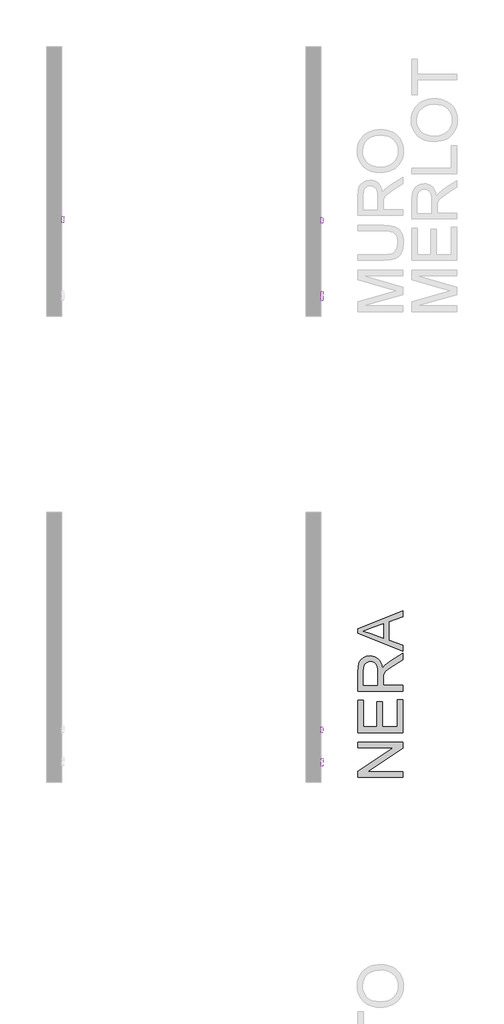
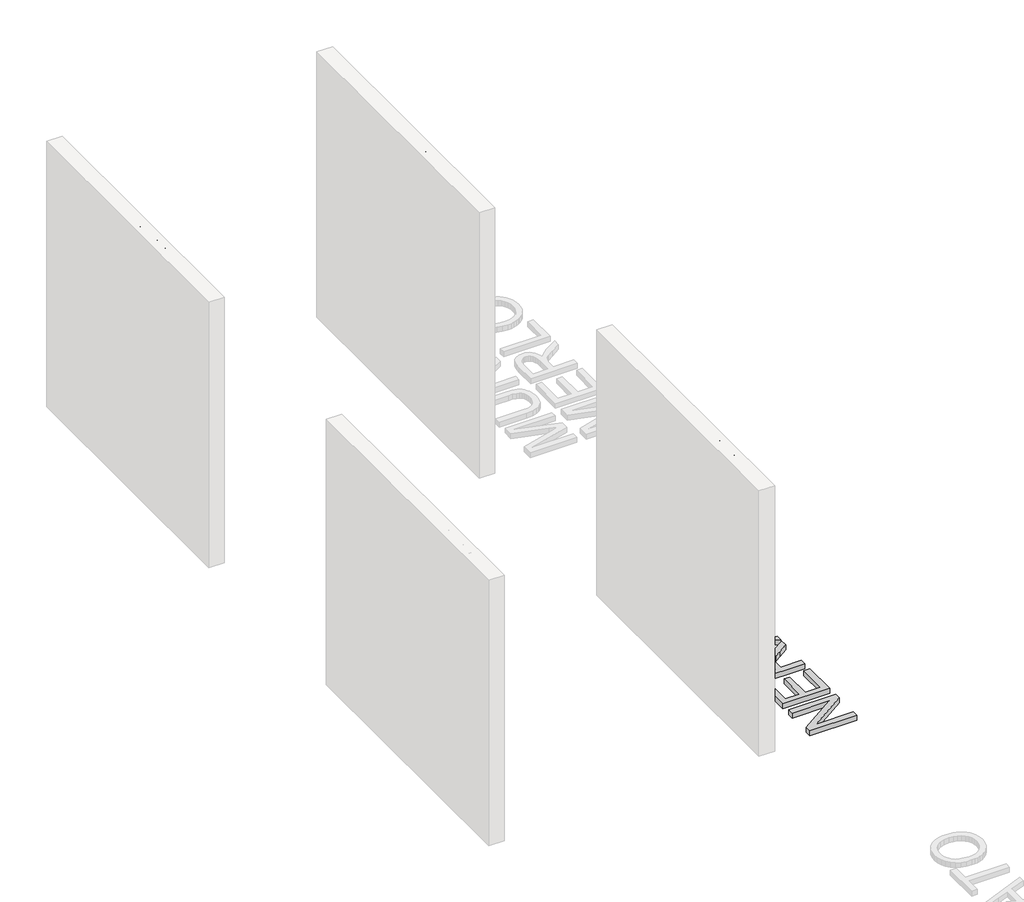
# One storey, part 10 of 11: 6 proxies.
"""IFC4 building model written with IfcOpenShell, lengths in millimetres."""

from ifc_helpers import new_model, si_unit, frame, origin, origin_with_axes, place, context, project, spatial, polyline, outline, extrude, element, save

model = new_model("IFC4")

# Units and contexts
model_context = context("Model", 3, world=origin())
ifc_project = project(units=[si_unit("LENGTHUNIT", "METRE", prefix="MILLI")], contexts=[model_context])

# Site, building, storey
site = spatial("IfcSite", under=ifc_project)
building = spatial("IfcBuilding", under=site)
storey = spatial("IfcBuildingStorey", under=building, Name="PORTOBELLO - SHOWROOM", Elevation=0.0)

# Proxies
placement = place(None, origin())
element("IfcBuildingElementProxy", 1, Name="10mm Arial", ObjectType="10mm Arial", at=placement, inside=storey, context=model_context, shape_type="SweptSolid", body=[
    extrude(outline(polyline([(4663.2400051, 2566.7247482), (4663.2400051, 2667.1810583), (4684.846941, 2667.1810583), (4705.3992818, 2596.376037), (4709.5440856, 2581.5871808), (4714.0322459, 2597.6023103), (4734.2412302, 2667.1810583), (4755.8481661, 2667.1810583), (4755.8481661, 2566.7247482), (4743.2911273, 2566.7247482), (4743.2911273, 2654.6240196), (4718.0544224, 2566.7247482), (4701.0337488, 2566.7247482), (4675.7970439, 2654.6240196), (4675.7970439, 2566.7247482), (4663.2400051, 2566.7247482)])), frame((-23458.2301018, 0.0, 0.0), z_axis=(1.0, 0.0, 0.0), x_axis=(0.0, 1.0, 0.0)), (0.0, 0.0, 1.0), 20.0),
    extrude(outline(polyline([(4823.3422494, 2566.7247482), (4823.3422494, 2579.4044143), (4813.5075374, 2568.7174423), (4800.6807185, 2565.1551183), (4788.8717065, 2567.6567159), (4780.7292517, 2573.9352353), (4776.989118, 2583.1813361), (4776.2533541, 2594.8554581), (4776.2533541, 2640.497351), (4788.8103928, 2640.497351), (4788.8103928, 2600.7660955), (4789.5706823, 2587.963802), (4794.5370892, 2580.4467466), (4803.8935546, 2577.7121571), (4814.3781915, 2580.5080603), (4821.3066357, 2588.1232176), (4823.3422494, 2602.1149961), (4823.3422494, 2640.497351), (4835.8992882, 2640.497351), (4835.8992882, 2566.7247482), (4823.3422494, 2566.7247482)])), frame((-23458.2301018, 0.0, 0.0), z_axis=(1.0, 0.0, 0.0), x_axis=(0.0, 1.0, 0.0)), (0.0, 0.0, 1.0), 20.0),
    extrude(outline(polyline([(4853.1652165, 2566.7247482), (4853.1652165, 2640.497351), (4864.1526254, 2640.497351), (4864.1526254, 2629.5835184), (4871.9517237, 2639.6389596), (4879.799873, 2642.0669808), (4892.4059627, 2638.1919571), (4888.2121079, 2626.9347681), (4879.38294, 2629.509942), (4872.2828175, 2627.0328699), (4867.757869, 2620.1657394), (4865.7222553, 2605.4995105), (4865.7222553, 2566.7247482), (4853.1652165, 2566.7247482)])), frame((-23458.2301018, 0.0, 0.0), z_axis=(1.0, 0.0, 0.0), x_axis=(0.0, 1.0, 0.0)), (0.0, 0.0, 1.0), 20.0),
    extrude(outline(polyline([(4897.1148522, 2603.6110496), (4899.8310476, 2621.398144), (4907.9796338, 2633.9000005), (4918.0473377, 2640.0252357), (4930.1016044, 2642.0669808), (4943.2932397, 2639.5807116), (4953.8299931, 2632.1219042), (4960.7369776, 2620.2791696), (4963.0393057, 2604.6411192), (4958.9680783, 2582.2984193), (4947.1100154, 2569.6555414), (4930.1016044, 2565.1551183), (4916.7505537, 2567.6321904), (4906.226063, 2575.0634067), (4899.3926549, 2587.1544617), (4897.1148522, 2603.6110496)]), holes=[polyline([(4909.671891, 2603.635575), (4911.1250249, 2592.2710871), (4915.4844265, 2584.1746175), (4922.0449887, 2579.3277722), (4930.1016044, 2577.7121571), (4938.1214319, 2579.3369693), (4944.6697315, 2584.2114057), (4949.0291331, 2592.4151742), (4950.482267, 2604.0279825), (4949.019936, 2615.0613767), (4944.6329433, 2623.0474816), (4938.0754467, 2627.8943269), (4930.1016044, 2629.509942), (4922.0449887, 2627.9004583), (4915.4844265, 2623.0720071), (4911.1250249, 2614.9939316), (4909.671891, 2603.635575)])]), frame((-23458.2301018, 0.0, 0.0), z_axis=(1.0, 0.0, 0.0), x_axis=(0.0, 1.0, 0.0)), (0.0, 0.0, 1.0), 20.0),
    extrude(outline(polyline([(5017.9763504, 2566.7247482), (5017.9763504, 2667.1810583), (5039.5832862, 2667.1810583), (5060.135627, 2596.376037), (5064.2804308, 2581.5871808), (5068.7685912, 2597.6023103), (5088.9775754, 2667.1810583), (5110.5845113, 2667.1810583), (5110.5845113, 2566.7247482), (5098.0274725, 2566.7247482), (5098.0274725, 2654.6240196), (5072.7907676, 2566.7247482), (5055.770094, 2566.7247482), (5030.5333891, 2654.6240196), (5030.5333891, 2566.7247482), (5017.9763504, 2566.7247482)])), frame((-23458.2301018, 0.0, 0.0), z_axis=(1.0, 0.0, 0.0), x_axis=(0.0, 1.0, 0.0)), (0.0, 0.0, 1.0), 20.0),
    extrude(outline(polyline([(5182.6403314, 2588.699566), (5194.9521155, 2587.1299362), (5190.5160718, 2577.8531785), (5183.4374091, 2570.9186029), (5173.8755429, 2566.5959895), (5161.9898887, 2565.1551183), (5147.2562148, 2567.6413875), (5135.919318, 2575.1001949), (5128.6904368, 2587.0471627), (5126.2808097, 2602.9979129), (5128.7149623, 2619.4851577), (5136.0174199, 2631.8153359), (5147.2010325, 2639.5040696), (5161.2786502, 2642.0669808), (5174.9178752, 2639.5102009), (5185.8163793, 2631.8398613), (5192.962487, 2619.5342086), (5195.344523, 2603.0714893), (5195.2709466, 2599.686975), (5138.8378485, 2599.686975), (5141.011418, 2590.28759), (5146.0605983, 2583.3775398), (5153.3477275, 2579.1285028), (5162.2351434, 2577.7121571), (5174.5469275, 2580.336382), (5182.6403314, 2588.699566)]), holes=[polyline([(5138.8378485, 2612.2440137), (5182.7874842, 2612.2440137), (5177.7597636, 2623.6238301), (5170.4389119, 2628.038414), (5161.2295993, 2629.509942), (5145.7662927, 2624.8133152), (5140.9010534, 2619.3226764), (5138.8378485, 2612.2440137)])]), frame((-23458.2301018, 0.0, 0.0), z_axis=(1.0, 0.0, 0.0), x_axis=(0.0, 1.0, 0.0)), (0.0, 0.0, 1.0), 20.0),
    extrude(outline(polyline([(5207.9015617, 2566.7247482), (5207.9015617, 2640.497351), (5218.8889707, 2640.497351), (5218.8889707, 2629.5835184), (5226.688069, 2639.6389596), (5234.5362182, 2642.0669808), (5247.1423079, 2638.1919571), (5242.9484531, 2626.9347681), (5234.1192853, 2629.509942), (5227.0191627, 2627.0328699), (5222.4942142, 2620.1657394), (5220.4586005, 2605.4995105), (5220.4586005, 2566.7247482), (5207.9015617, 2566.7247482)])), frame((-23458.2301018, 0.0, 0.0), z_axis=(1.0, 0.0, 0.0), x_axis=(0.0, 1.0, 0.0)), (0.0, 0.0, 1.0), 20.0),
    extrude(outline(polyline([(-23438.2301018, 5267.5474959), (-23438.2301018, 5254.9904571), (-23458.2301018, 5254.9904571), (-23458.2301018, 5267.5474959), (-23438.2301018, 5267.5474959)])), frame((0.0, 0.0, 2566.7247482), z_axis=(0.0, 0.0, 1.0), x_axis=(1.0, 0.0, 0.0)), (0.0, 0.0, 1.0), 100.4563101),
    extrude(outline(polyline([(5283.2437943, 2603.6110496), (5285.9599897, 2621.398144), (5294.1085759, 2633.9000005), (5304.1762799, 2640.0252357), (5316.2305466, 2642.0669808), (5329.4221818, 2639.5807116), (5339.9589353, 2632.1219042), (5346.8659197, 2620.2791696), (5349.1682479, 2604.6411192), (5345.0970205, 2582.2984193), (5333.2389575, 2569.6555414), (5316.2305466, 2565.1551183), (5302.8794958, 2567.6321904), (5292.3550051, 2575.0634067), (5285.521597, 2587.1544617), (5283.2437943, 2603.6110496)]), holes=[polyline([(5295.8008331, 2603.635575), (5297.253967, 2592.2710871), (5301.6133686, 2584.1746175), (5308.1739309, 2579.3277722), (5316.2305466, 2577.7121571), (5324.2503741, 2579.3369693), (5330.7986736, 2584.2114057), (5335.1580752, 2592.4151742), (5336.6112091, 2604.0279825), (5335.1488782, 2615.0613767), (5330.7618854, 2623.0474816), (5324.2043888, 2627.8943269), (5316.2305466, 2629.509942), (5308.1739309, 2627.9004583), (5301.6133686, 2623.0720071), (5297.253967, 2614.9939316), (5295.8008331, 2603.635575)])]), frame((-23458.2301018, 0.0, 0.0), z_axis=(1.0, 0.0, 0.0), x_axis=(0.0, 1.0, 0.0)), (0.0, 0.0, 1.0), 20.0),
    extrude(outline(polyline([(5389.9786239, 2577.1971223), (5391.5482537, 2566.3568662), (5382.1550001, 2565.1551183), (5371.6335751, 2567.239783), (5366.3851253, 2572.708962), (5364.8645463, 2586.9582579), (5364.8645463, 2627.9403122), (5355.4467673, 2627.9403122), (5355.4467673, 2640.497351), (5364.8645463, 2640.497351), (5364.8645463, 2658.4254669), (5377.4215851, 2665.8076322), (5377.4215851, 2640.497351), (5389.9786239, 2640.497351), (5389.9786239, 2627.9403122), (5377.4215851, 2627.9403122), (5377.4215851, 2587.3261399), (5378.0837727, 2580.8514168), (5380.229751, 2578.5582857), (5384.5094449, 2577.7121571), (5389.9786239, 2577.1971223)])), frame((-23458.2301018, 0.0, 0.0), z_axis=(1.0, 0.0, 0.0), x_axis=(0.0, 1.0, 0.0)), (0.0, 0.0, 1.0), 20.0),
])
element("IfcBuildingElementProxy", 2, Name="10mm Arial", ObjectType="10mm Arial", at=placement, inside=storey, context=model_context, shape_type="SweptSolid", body=[
    extrude(outline(polyline([(6.8746851, 2563.6002433), (6.8746851, 2664.0565535), (20.3146406, 2664.0565535), (72.7991386, 2584.4714152), (72.7991386, 2664.0565535), (85.3561774, 2664.0565535), (85.3561774, 2563.6002433), (71.9162218, 2563.6002433), (19.4317238, 2643.2099071), (19.4317238, 2563.6002433), (6.8746851, 2563.6002433)])), frame((-23458.2301018, 0.0, 0.0), z_axis=(1.0, 0.0, 0.0), x_axis=(0.0, 1.0, 0.0)), (0.0, 0.0, 1.0), 20.0),
    extrude(outline(polyline([(157.4119975, 2585.5750612), (169.7237816, 2584.0054313), (165.2877379, 2574.7286737), (158.2090751, 2567.7940981), (148.6472089, 2563.4714846), (136.7615548, 2562.0306135), (122.0278809, 2564.5168826), (110.6909841, 2571.9756901), (103.4621029, 2583.9226579), (101.0524758, 2599.8734081), (103.4866284, 2616.3606528), (110.789086, 2628.690831), (121.9726986, 2636.3795647), (136.0503163, 2638.9424759), (149.6895413, 2636.3856961), (160.5880454, 2628.7153565), (167.7341531, 2616.4097037), (170.116189, 2599.9469845), (170.0426126, 2596.5624701), (113.6095146, 2596.5624701), (115.783084, 2587.1630851), (120.8322644, 2580.253035), (128.1193936, 2576.0039979), (137.0068095, 2574.5876523), (149.3185936, 2577.2118772), (157.4119975, 2585.5750612)]), holes=[polyline([(113.6095146, 2609.1195089), (157.5591503, 2609.1195089), (152.5314297, 2620.4993253), (145.210578, 2624.9139092), (136.0012654, 2626.3854372), (120.5379588, 2621.6888104), (115.6727194, 2616.1981716), (113.6095146, 2609.1195089)])]), frame((-23458.2301018, 0.0, 0.0), z_axis=(1.0, 0.0, 0.0), x_axis=(0.0, 1.0, 0.0)), (0.0, 0.0, 1.0), 20.0),
    extrude(outline(polyline([(182.6732278, 2563.6002433), (182.6732278, 2637.3728461), (193.6606367, 2637.3728461), (193.6606367, 2626.4590136), (201.459735, 2636.5144548), (209.3078843, 2638.9424759), (221.913974, 2635.0674523), (217.7201192, 2623.8102632), (208.8909513, 2626.3854372), (201.7908288, 2623.9083651), (197.2658803, 2617.0412345), (195.2302666, 2602.3750056), (195.2302666, 2563.6002433), (182.6732278, 2563.6002433)])), frame((-23458.2301018, 0.0, 0.0), z_axis=(1.0, 0.0, 0.0), x_axis=(0.0, 1.0, 0.0)), (0.0, 0.0, 1.0), 20.0),
    extrude(outline(polyline([(276.8510186, 2573.0180224), (264.6741245, 2564.5076856), (251.2219063, 2562.0306135), (240.7280723, 2563.5205356), (232.987222, 2567.9903018), (228.2139531, 2574.7777246), (226.6228635, 2583.2206164), (229.0263592, 2593.1534303), (235.3416668, 2600.3639174), (244.1340465, 2604.4841957), (254.9988281, 2606.3726566), (276.7774422, 2610.6891387), (276.8510186, 2613.4850419), (273.3929278, 2622.7556682), (259.5115139, 2626.3854372), (246.8073223, 2623.9696787), (240.7495321, 2615.3980283), (228.1924934, 2616.9676581), (233.6248841, 2629.2303913), (244.5632421, 2636.4163529), (261.1301947, 2638.9424759), (276.3482465, 2636.7106585), (284.9444225, 2631.1065894), (288.7949207, 2622.5839899), (289.4080573, 2611.596581), (289.4080573, 2595.9738589), (290.0457195, 2574.1584566), (292.547317, 2563.6002433), (279.9902783, 2563.6002433), (276.8510186, 2573.0180224)]), holes=[polyline([(276.8510186, 2598.1320999), (256.5929834, 2594.2816017), (245.7895155, 2592.245988), (240.8966849, 2588.9350501), (239.1799023, 2584.1035332), (242.9200359, 2577.309979), (253.8951821, 2574.5876523), (266.5993736, 2577.5920219), (274.7908794, 2584.8638227), (276.7774422, 2594.5759073), (276.8510186, 2598.1320999)])]), frame((-23458.2301018, 0.0, 0.0), z_axis=(1.0, 0.0, 0.0), x_axis=(0.0, 1.0, 0.0)), (0.0, 0.0, 1.0), 20.0),
])
element("IfcBuildingElementProxy", 3, Name="10mm Arial Narrow", ObjectType="10mm Arial Narrow", at=placement, inside=storey, context=model_context, shape_type="SweptSolid", body=[
    extrude(outline(polyline([(5441.5533139, 2564.6541058), (5441.5533139, 2665.3727096), (5472.8501986, 2665.3727096), (5489.1459001, 2663.4943888), (5500.6188862, 2654.0139457), (5504.9085647, 2636.9948368), (5503.1222563, 2624.9190113), (5497.7633311, 2615.2926175), (5488.0195422, 2608.9913591), (5473.078643, 2606.8909397), (5451.3002756, 2606.8909397), (5451.3002756, 2564.6541058), (5441.5533139, 2564.6541058)]), holes=[polyline([(5451.3002756, 2618.2623949), (5474.2716305, 2618.2623949), (5490.1358259, 2622.7932091), (5495.161603, 2636.4617999), (5492.6867885, 2646.6275763), (5486.7091597, 2652.4275261), (5474.0431861, 2654.0012543), (5451.3002756, 2654.0012543), (5451.3002756, 2618.2623949)])]), frame((-26058.2301018, 0.0, 0.0), z_axis=(1.0, 0.0, 0.0), x_axis=(0.0, 1.0, 0.0)), (0.0, 0.0, 1.0), 20.0),
    extrude(outline(polyline([(5513.0310327, 2601.205212), (5514.9855016, 2617.7959876), (5520.8489082, 2629.7480724), (5529.7074749, 2636.972627), (5540.6474241, 2639.3808118), (5551.4604596, 2636.972627), (5560.3444091, 2629.7480724), (5566.2839638, 2617.9863579), (5568.2638154, 2601.9666934), (5566.3188651, 2584.8048068), (5560.484014, 2572.6623517), (5551.6349658, 2565.4377971), (5540.6474241, 2563.0296122), (5529.7867959, 2565.4441428), (5520.912365, 2572.6877344), (5515.0013658, 2584.6461649), (5513.0310327, 2601.205212)]), holes=[polyline([(5522.7779944, 2601.2305947), (5524.0820312, 2588.6788433), (5527.9941418, 2579.8075853), (5533.8353386, 2574.5343267), (5540.9266339, 2572.7765739), (5547.6467071, 2574.5501909), (5553.3387804, 2579.8710421), (5557.2223354, 2588.7581643), (5558.5168538, 2601.2305947), (5557.2128169, 2613.7442721), (5553.3007063, 2622.6028388), (5547.4595096, 2627.8760973), (5540.3682142, 2629.6338502), (5533.6005485, 2627.8665788), (5527.9179937, 2622.5647647), (5524.0629942, 2613.6966795), (5522.7779944, 2601.2305947)])]), frame((-26058.2301018, 0.0, 0.0), z_axis=(1.0, 0.0, 0.0), x_axis=(0.0, 1.0, 0.0)), (0.0, 0.0, 1.0), 20.0),
    extrude(outline(polyline([(5639.7415342, 2572.7765739), (5641.3660278, 2563.0296122), (5634.0050411, 2563.0296122), (5625.7302768, 2565.1490687), (5621.4152157, 2570.9490186), (5620.2476109, 2585.5948438), (5620.2476109, 2628.0093566), (5612.1251428, 2628.0093566), (5612.1251428, 2631.2583438), (5610.5006492, 2626.384863), (5602.9366009, 2628.0093566), (5596.8574412, 2625.6868384), (5592.9865775, 2619.2015553), (5591.0067259, 2603.7942487), (5591.0067259, 2564.6541058), (5581.2597643, 2564.6541058), (5581.2597643, 2637.7563182), (5591.0067259, 2637.7563182), (5591.0067259, 2628.060122), (5597.2508732, 2637.1471331), (5603.6473168, 2639.3808118), (5612.1251428, 2637.7563182), (5620.2476109, 2637.7563182), (5620.2476109, 2654.0012543), (5629.9945725, 2662.1237224), (5629.9945725, 2637.7563182), (5639.7415342, 2637.7563182), (5639.7415342, 2628.0093566), (5629.9945725, 2628.0093566), (5629.9945725, 2583.361165), (5630.8575848, 2575.3656106), (5635.4772385, 2572.7765739), (5639.7415342, 2572.7765739)])), frame((-26058.2301018, 0.0, 0.0), z_axis=(1.0, 0.0, 0.0), x_axis=(0.0, 1.0, 0.0)), (0.0, 0.0, 1.0), 20.0),
    extrude(outline(polyline([(5646.2395086, 2601.205212), (5648.1939775, 2617.7959876), (5654.0573841, 2629.7480724), (5662.9159508, 2636.972627), (5673.8559, 2639.3808118), (5684.6689356, 2636.972627), (5693.552885, 2629.7480724), (5699.4924398, 2617.9863579), (5701.4722913, 2601.9666934), (5699.527341, 2584.8048068), (5693.6924899, 2572.6623517), (5684.8434417, 2565.4377971), (5673.8559, 2563.0296122), (5662.9952718, 2565.4441428), (5654.1208409, 2572.6877344), (5648.2098417, 2584.6461649), (5646.2395086, 2601.205212)]), holes=[polyline([(5655.9864703, 2601.2305947), (5657.2905072, 2588.6788433), (5661.2026177, 2579.8075853), (5667.0438145, 2574.5343267), (5674.1351098, 2572.7765739), (5680.855183, 2574.5501909), (5686.5472563, 2579.8710421), (5690.4308113, 2588.7581643), (5691.7253297, 2601.2305947), (5690.4212928, 2613.7442721), (5686.5091822, 2622.6028388), (5680.6679855, 2627.8760973), (5673.5766901, 2629.6338502), (5666.8090244, 2627.8665788), (5661.1264696, 2622.5647647), (5657.2714701, 2613.6966795), (5655.9864703, 2601.2305947)])]), frame((-26058.2301018, 0.0, 0.0), z_axis=(1.0, 0.0, 0.0), x_axis=(0.0, 1.0, 0.0)), (0.0, 0.0, 1.0), 20.0),
    extrude(outline(polyline([(5724.2152019, 2564.6541058), (5714.4682402, 2564.6541058), (5714.4682402, 2665.3727096), (5724.2152019, 2665.3727096), (5724.2152019, 2629.9638254), (5731.6142626, 2637.0456023), (5740.8154959, 2639.3808118), (5753.6972226, 2635.1799729), (5762.9746041, 2622.4505425), (5766.4520357, 2601.7636317), (5764.5197767, 2585.3092882), (5758.7229997, 2573.1065491), (5750.3498774, 2565.5488464), (5740.6885824, 2563.0296122), (5731.3477441, 2565.6440316), (5724.2152019, 2573.4111417), (5724.2152019, 2564.6541058)]), holes=[polyline([(5724.2152019, 2601.7636317), (5726.2965843, 2584.5160785), (5732.1853736, 2575.7844253), (5740.6378169, 2572.7765739), (5746.5805445, 2574.5660551), (5751.8189019, 2579.9344988), (5756.705074, 2601.3575083), (5751.9965808, 2622.7932091), (5746.7518778, 2627.9236899), (5740.4347552, 2629.6338502), (5734.4571264, 2627.8443689), (5729.1648308, 2622.4759252), (5724.2152019, 2601.7636317)])]), frame((-26058.2301018, 0.0, 0.0), z_axis=(1.0, 0.0, 0.0), x_axis=(0.0, 1.0, 0.0)), (0.0, 0.0, 1.0), 20.0),
    extrude(outline(polyline([(5818.4358312, 2587.3970163), (5828.1827928, 2585.7725227), (5824.4832625, 2575.8859562), (5818.6642756, 2568.7661053), (5810.9606223, 2564.4637355), (5801.6070927, 2563.0296122), (5790.0135387, 2565.4441428), (5780.8694165, 2572.6877344), (5774.9298617, 2584.4938686), (5772.9500101, 2600.5960269), (5774.9393802, 2617.2629506), (5780.9074905, 2629.4434798), (5789.9215264, 2636.8964788), (5801.048673, 2639.3808118), (5811.7316222, 2636.9821455), (5820.4791395, 2629.7861465), (5826.3139906, 2618.0466419), (5828.258941, 2602.0174588), (5828.1827928, 2598.7684716), (5782.6969718, 2598.7684716), (5788.6999833, 2579.3253137), (5794.6300196, 2574.4137588), (5801.7340063, 2572.7765739), (5811.912474, 2576.4316845), (5818.4358312, 2587.3970163)]), holes=[polyline([(5783.3569223, 2608.5154333), (5818.4358312, 2608.5154333), (5814.1715355, 2622.7805178), (5808.3462029, 2627.9205171), (5801.1248212, 2629.6338502), (5788.9157364, 2623.9227398), (5783.3569223, 2608.5154333)])]), frame((-26058.2301018, 0.0, 0.0), z_axis=(1.0, 0.0, 0.0), x_axis=(0.0, 1.0, 0.0)), (0.0, 0.0, 1.0), 20.0),
    extrude(outline(polyline([(-26038.2301018, 5850.9257034), (-26038.2301018, 5841.1787417), (-26058.2301018, 5841.1787417), (-26058.2301018, 5850.9257034), (-26038.2301018, 5850.9257034)])), frame((0.0, 0.0, 2564.6541058), z_axis=(0.0, 0.0, 1.0), x_axis=(1.0, 0.0, 0.0)), (0.0, 0.0, 1.0), 100.7186038),
    extrude(outline(polyline([(-26038.2301018, 5876.9176011), (-26038.2301018, 5867.1706394), (-26058.2301018, 5867.1706394), (-26058.2301018, 5876.9176011), (-26038.2301018, 5876.9176011)])), frame((0.0, 0.0, 2564.6541058), z_axis=(0.0, 0.0, 1.0), x_axis=(1.0, 0.0, 0.0)), (0.0, 0.0, 1.0), 100.7186038),
    extrude(outline(polyline([(5888.2890564, 2601.205212), (5890.2435252, 2617.7959876), (5896.1069319, 2629.7480724), (5904.9654986, 2636.972627), (5915.9054477, 2639.3808118), (5926.7184833, 2636.972627), (5935.6024327, 2629.7480724), (5941.5419875, 2617.9863579), (5943.5218391, 2601.9666934), (5941.5768887, 2584.8048068), (5935.7420376, 2572.6623517), (5926.8929895, 2565.4377971), (5915.9054477, 2563.0296122), (5905.0448195, 2565.4441428), (5896.1703886, 2572.6877344), (5890.2593894, 2584.6461649), (5888.2890564, 2601.205212)]), holes=[polyline([(5898.036018, 2601.2305947), (5899.3400549, 2588.6788433), (5903.2521655, 2579.8075853), (5909.0933622, 2574.5343267), (5916.1846576, 2572.7765739), (5922.9047307, 2574.5501909), (5928.596804, 2579.8710421), (5932.4803591, 2588.7581643), (5933.7748774, 2601.2305947), (5932.4708406, 2613.7442721), (5928.55873, 2622.6028388), (5922.7175332, 2627.8760973), (5915.6262379, 2629.6338502), (5908.8585721, 2627.8665788), (5903.1760173, 2622.5647647), (5899.3210178, 2613.6966795), (5898.036018, 2601.2305947)])]), frame((-26058.2301018, 0.0, 0.0), z_axis=(1.0, 0.0, 0.0), x_axis=(0.0, 1.0, 0.0)), (0.0, 0.0, 1.0), 20.0),
])
element("IfcBuildingElementProxy", 4, Name="10mm Arial Narrow", ObjectType="10mm Arial Narrow", at=placement, inside=storey, context=model_context, shape_type="SweptSolid", body=[
    extrude(outline(polyline([(5435.3750643, 2566.7247482), (5435.3750643, 2667.4433519), (5466.6719489, 2667.4433519), (5482.9676505, 2665.5650312), (5494.4406366, 2656.084588), (5498.730315, 2639.0654792), (5496.9440066, 2626.9896537), (5491.5850814, 2617.3632599), (5481.8412926, 2611.0620015), (5466.9003934, 2608.961582), (5445.1220259, 2608.961582), (5445.1220259, 2566.7247482), (5435.3750643, 2566.7247482)]), holes=[polyline([(5445.1220259, 2620.3330373), (5468.0933809, 2620.3330373), (5483.9575763, 2624.8638515), (5488.9833534, 2638.5324422), (5486.5085389, 2648.6982187), (5480.53091, 2654.4981685), (5467.8649364, 2656.0718967), (5445.1220259, 2656.0718967), (5445.1220259, 2620.3330373)])]), frame((-23458.2301018, 0.0, 0.0), z_axis=(1.0, 0.0, 0.0), x_axis=(0.0, 1.0, 0.0)), (0.0, 0.0, 1.0), 20.0),
    extrude(outline(polyline([(5506.8527831, 2603.2758544), (5508.8072519, 2619.8666299), (5514.6706585, 2631.8187148), (5523.5292253, 2639.0432693), (5534.4691744, 2641.4514542), (5545.28221, 2639.0432693), (5554.1661594, 2631.8187148), (5560.1057142, 2620.0570003), (5562.0855658, 2604.0373358), (5560.1406154, 2586.8754492), (5554.3057643, 2574.732994), (5545.4567161, 2567.5084394), (5534.4691744, 2565.1002546), (5523.6085462, 2567.5147851), (5514.7341153, 2574.7583767), (5508.8231161, 2586.7168072), (5506.8527831, 2603.2758544)]), holes=[polyline([(5516.5997447, 2603.3012371), (5517.9037816, 2590.7494857), (5521.8158922, 2581.8782276), (5527.6570889, 2576.6049691), (5534.7483842, 2574.8472162), (5541.4684574, 2576.6208333), (5547.1605307, 2581.9416844), (5551.0440858, 2590.8288067), (5552.3386041, 2603.3012371), (5551.0345672, 2615.8149144), (5547.1224567, 2624.6734811), (5541.2812599, 2629.9467397), (5534.1899646, 2631.7044925), (5527.4222988, 2629.9372212), (5521.739744, 2624.6354071), (5517.8847445, 2615.7673218), (5516.5997447, 2603.3012371)])]), frame((-23458.2301018, 0.0, 0.0), z_axis=(1.0, 0.0, 0.0), x_axis=(0.0, 1.0, 0.0)), (0.0, 0.0, 1.0), 20.0),
    extrude(outline(polyline([(5633.5632846, 2574.8472162), (5635.1877782, 2565.1002546), (5627.8267915, 2565.1002546), (5619.5520272, 2567.2197111), (5615.236966, 2573.0196609), (5614.0693612, 2587.6654861), (5614.0693612, 2630.0799989), (5605.9468932, 2630.0799989), (5605.9468932, 2633.3289862), (5604.3223996, 2628.4555053), (5596.7583512, 2630.0799989), (5590.6791915, 2627.7574807), (5586.8083279, 2621.2721976), (5584.8284763, 2605.8648911), (5584.8284763, 2566.7247482), (5575.0815146, 2566.7247482), (5575.0815146, 2639.8269606), (5584.8284763, 2639.8269606), (5584.8284763, 2630.1307644), (5591.0726236, 2639.2177755), (5597.4690672, 2641.4514542), (5605.9468932, 2639.8269606), (5614.0693612, 2639.8269606), (5614.0693612, 2656.0718967), (5623.8163229, 2664.1943647), (5623.8163229, 2639.8269606), (5633.5632846, 2639.8269606), (5633.5632846, 2630.0799989), (5623.8163229, 2630.0799989), (5623.8163229, 2585.4318074), (5624.6793351, 2577.4362529), (5629.2989888, 2574.8472162), (5633.5632846, 2574.8472162)])), frame((-23458.2301018, 0.0, 0.0), z_axis=(1.0, 0.0, 0.0), x_axis=(0.0, 1.0, 0.0)), (0.0, 0.0, 1.0), 20.0),
    extrude(outline(polyline([(5640.061259, 2603.2758544), (5642.0157279, 2619.8666299), (5647.8791345, 2631.8187148), (5656.7377012, 2639.0432693), (5667.6776503, 2641.4514542), (5678.4906859, 2639.0432693), (5687.3746353, 2631.8187148), (5693.3141901, 2620.0570003), (5695.2940417, 2604.0373358), (5693.3490913, 2586.8754492), (5687.5142403, 2574.732994), (5678.6651921, 2567.5084394), (5667.6776503, 2565.1002546), (5656.8170222, 2567.5147851), (5647.9425913, 2574.7583767), (5642.0315921, 2586.7168072), (5640.061259, 2603.2758544)]), holes=[polyline([(5649.8082206, 2603.3012371), (5651.1122575, 2590.7494857), (5655.0243681, 2581.8782276), (5660.8655648, 2576.6049691), (5667.9568602, 2574.8472162), (5674.6769333, 2576.6208333), (5680.3690067, 2581.9416844), (5684.2525617, 2590.8288067), (5685.54708, 2603.3012371), (5684.2430432, 2615.8149144), (5680.3309326, 2624.6734811), (5674.4897358, 2629.9467397), (5667.3984405, 2631.7044925), (5660.6307747, 2629.9372212), (5654.9482199, 2624.6354071), (5651.0932205, 2615.7673218), (5649.8082206, 2603.3012371)])]), frame((-23458.2301018, 0.0, 0.0), z_axis=(1.0, 0.0, 0.0), x_axis=(0.0, 1.0, 0.0)), (0.0, 0.0, 1.0), 20.0),
    extrude(outline(polyline([(5718.0369522, 2566.7247482), (5708.2899906, 2566.7247482), (5708.2899906, 2667.4433519), (5718.0369522, 2667.4433519), (5718.0369522, 2632.0344678), (5725.4360129, 2639.1162446), (5734.6372463, 2641.4514542), (5747.5189729, 2637.2506153), (5756.7963544, 2624.5211849), (5760.273786, 2603.8342741), (5758.341527, 2587.3799306), (5752.54475, 2575.1771915), (5744.1716277, 2567.6194888), (5734.5103327, 2565.1002546), (5725.1694945, 2567.714674), (5718.0369522, 2575.481784), (5718.0369522, 2566.7247482)]), holes=[polyline([(5718.0369522, 2603.8342741), (5720.1183347, 2586.5867208), (5726.007124, 2577.8550677), (5734.4595673, 2574.8472162), (5740.4022949, 2576.6366975), (5745.6406522, 2582.0051412), (5750.5268244, 2603.4281507), (5745.8183312, 2624.8638515), (5740.5736282, 2629.9943323), (5734.2565056, 2631.7044925), (5728.2788768, 2629.9150113), (5722.9865812, 2624.5465676), (5718.0369522, 2603.8342741)])]), frame((-23458.2301018, 0.0, 0.0), z_axis=(1.0, 0.0, 0.0), x_axis=(0.0, 1.0, 0.0)), (0.0, 0.0, 1.0), 20.0),
    extrude(outline(polyline([(5812.2575815, 2589.4676587), (5822.0045432, 2587.8431651), (5818.3050128, 2577.9565985), (5812.4860259, 2570.8367476), (5804.7823727, 2566.5343778), (5795.4288431, 2565.1002546), (5783.8352891, 2567.5147851), (5774.6911668, 2574.7583767), (5768.7516121, 2586.564511), (5766.7717605, 2602.6666693), (5768.7611306, 2619.333593), (5774.7292409, 2631.5141222), (5783.7432767, 2638.9671212), (5794.8704234, 2641.4514542), (5805.5533726, 2639.0527879), (5814.3008899, 2631.8567888), (5820.135741, 2620.1172842), (5822.0806913, 2604.0881012), (5822.0045432, 2600.839114), (5776.5187221, 2600.839114), (5782.5217337, 2581.3959561), (5788.4517699, 2576.4844012), (5795.5557566, 2574.8472162), (5805.7342244, 2578.5023269), (5812.2575815, 2589.4676587)]), holes=[polyline([(5777.1786727, 2610.5860756), (5812.2575815, 2610.5860756), (5807.9932858, 2624.8511601), (5802.1679533, 2629.9911594), (5794.9465715, 2631.7044925), (5782.7374867, 2625.9933822), (5777.1786727, 2610.5860756)])]), frame((-23458.2301018, 0.0, 0.0), z_axis=(1.0, 0.0, 0.0), x_axis=(0.0, 1.0, 0.0)), (0.0, 0.0, 1.0), 20.0),
    extrude(outline(polyline([(-23438.2301018, 5844.7474537), (-23438.2301018, 5835.0004921), (-23458.2301018, 5835.0004921), (-23458.2301018, 5844.7474537), (-23438.2301018, 5844.7474537)])), frame((0.0, 0.0, 2566.7247482), z_axis=(0.0, 0.0, 1.0), x_axis=(1.0, 0.0, 0.0)), (0.0, 0.0, 1.0), 100.7186038),
    extrude(outline(polyline([(-23438.2301018, 5870.7393515), (-23438.2301018, 5860.9923898), (-23458.2301018, 5860.9923898), (-23458.2301018, 5870.7393515), (-23438.2301018, 5870.7393515)])), frame((0.0, 0.0, 2566.7247482), z_axis=(0.0, 0.0, 1.0), x_axis=(1.0, 0.0, 0.0)), (0.0, 0.0, 1.0), 100.7186038),
    extrude(outline(polyline([(5882.1108067, 2603.2758544), (5884.0652756, 2619.8666299), (5889.9286822, 2631.8187148), (5898.7872489, 2639.0432693), (5909.7271981, 2641.4514542), (5920.5402337, 2639.0432693), (5929.4241831, 2631.8187148), (5935.3637378, 2620.0570003), (5937.3435894, 2604.0373358), (5935.3986391, 2586.8754492), (5929.563788, 2574.732994), (5920.7147398, 2567.5084394), (5909.7271981, 2565.1002546), (5898.8665699, 2567.5147851), (5889.992139, 2574.7583767), (5884.0811398, 2586.7168072), (5882.1108067, 2603.2758544)]), holes=[polyline([(5891.8577684, 2603.3012371), (5893.1618052, 2590.7494857), (5897.0739158, 2581.8782276), (5902.9151126, 2576.6049691), (5910.0064079, 2574.8472162), (5916.7264811, 2576.6208333), (5922.4185544, 2581.9416844), (5926.3021094, 2590.8288067), (5927.5966278, 2603.3012371), (5926.2925909, 2615.8149144), (5922.3804803, 2624.6734811), (5916.5392836, 2629.9467397), (5909.4479882, 2631.7044925), (5902.6803225, 2629.9372212), (5896.9977677, 2624.6354071), (5893.1427682, 2615.7673218), (5891.8577684, 2603.3012371)])]), frame((-23458.2301018, 0.0, 0.0), z_axis=(1.0, 0.0, 0.0), x_axis=(0.0, 1.0, 0.0)), (0.0, 0.0, 1.0), 20.0),
])
element("IfcBuildingElementProxy", 5, Name="10mm Arial Narrow", ObjectType="10mm Arial Narrow", at=placement, inside=storey, context=model_context, shape_type="SweptSolid", body=[
    extrude(outline(polyline([(339.0097442, 2563.6002433), (339.0097442, 2664.3188471), (370.3066289, 2664.3188471), (386.6023304, 2662.4405264), (398.0753165, 2652.9600832), (402.3649949, 2635.9409744), (400.5786865, 2623.8651488), (395.2197613, 2614.238755), (385.4759725, 2607.9374966), (370.5350733, 2605.8370772), (348.7567058, 2605.8370772), (348.7567058, 2563.6002433), (339.0097442, 2563.6002433)]), holes=[polyline([(348.7567058, 2617.2085324), (371.7280608, 2617.2085324), (387.5922562, 2621.7393466), (392.6180333, 2635.4079374), (390.1432188, 2645.5737138), (384.16559, 2651.3736636), (371.4996164, 2652.9473918), (348.7567058, 2652.9473918), (348.7567058, 2617.2085324)])]), frame((-23458.2301018, 0.0, 0.0), z_axis=(1.0, 0.0, 0.0), x_axis=(0.0, 1.0, 0.0)), (0.0, 0.0, 1.0), 20.0),
    extrude(outline(polyline([(410.487463, 2600.1513495), (412.4419318, 2616.7421251), (418.3053385, 2628.6942099), (427.1639052, 2635.9187645), (438.1038543, 2638.3269493), (448.9168899, 2635.9187645), (457.8008393, 2628.6942099), (463.7403941, 2616.9324954), (465.7202457, 2600.9128309), (463.7752953, 2583.7509443), (457.9404442, 2571.6084892), (449.0913961, 2564.3839346), (438.1038543, 2561.9757497), (427.2432261, 2564.3902803), (418.3687952, 2571.6338719), (412.457796, 2583.5923024), (410.487463, 2600.1513495)]), holes=[polyline([(420.2344246, 2600.1767322), (421.5384615, 2587.6249808), (425.4505721, 2578.7537228), (431.2917688, 2573.4804642), (438.3830642, 2571.7227114), (445.1031373, 2573.4963284), (450.7952106, 2578.8171796), (454.6787657, 2587.7043018), (455.973284, 2600.1767322), (454.6692472, 2612.6904096), (450.7571366, 2621.5489763), (444.9159398, 2626.8222348), (437.8246445, 2628.5799877), (431.0569787, 2626.8127163), (425.3744239, 2621.5109022), (421.5194244, 2612.642817), (420.2344246, 2600.1767322)])]), frame((-23458.2301018, 0.0, 0.0), z_axis=(1.0, 0.0, 0.0), x_axis=(0.0, 1.0, 0.0)), (0.0, 0.0, 1.0), 20.0),
    extrude(outline(polyline([(537.1979645, 2571.7227114), (538.8224581, 2561.9757497), (531.4614714, 2561.9757497), (523.1867071, 2564.0952062), (518.8716459, 2569.8951561), (517.7040412, 2584.5409813), (517.7040412, 2626.9554941), (509.5815731, 2626.9554941), (509.5815731, 2630.2044813), (507.9570795, 2625.3310005), (500.3930311, 2626.9554941), (494.3138715, 2624.6329759), (490.4430078, 2618.1476928), (488.4631562, 2602.7403862), (488.4631562, 2563.6002433), (478.7161945, 2563.6002433), (478.7161945, 2636.7024557), (488.4631562, 2636.7024557), (488.4631562, 2627.0062595), (494.7073035, 2636.0932706), (501.1037471, 2638.3269493), (509.5815731, 2636.7024557), (517.7040412, 2636.7024557), (517.7040412, 2652.9473918), (527.4510028, 2661.0698599), (527.4510028, 2636.7024557), (537.1979645, 2636.7024557), (537.1979645, 2626.9554941), (527.4510028, 2626.9554941), (527.4510028, 2582.3073025), (528.314015, 2574.3117481), (532.9336687, 2571.7227114), (537.1979645, 2571.7227114)])), frame((-23458.2301018, 0.0, 0.0), z_axis=(1.0, 0.0, 0.0), x_axis=(0.0, 1.0, 0.0)), (0.0, 0.0, 1.0), 20.0),
    extrude(outline(polyline([(543.6959389, 2600.1513495), (545.6504078, 2616.7421251), (551.5138144, 2628.6942099), (560.3723811, 2635.9187645), (571.3123303, 2638.3269493), (582.1253658, 2635.9187645), (591.0093153, 2628.6942099), (596.94887, 2616.9324954), (598.9287216, 2600.9128309), (596.9837712, 2583.7509443), (591.1489202, 2571.6084892), (582.299872, 2564.3839346), (571.3123303, 2561.9757497), (560.4517021, 2564.3902803), (551.5772712, 2571.6338719), (545.666272, 2583.5923024), (543.6959389, 2600.1513495)]), holes=[polyline([(553.4429006, 2600.1767322), (554.7469374, 2587.6249808), (558.659048, 2578.7537228), (564.5002447, 2573.4804642), (571.5915401, 2571.7227114), (578.3116133, 2573.4963284), (584.0036866, 2578.8171796), (587.8872416, 2587.7043018), (589.1817599, 2600.1767322), (587.8777231, 2612.6904096), (583.9656125, 2621.5489763), (578.1244158, 2626.8222348), (571.0331204, 2628.5799877), (564.2654547, 2626.8127163), (558.5828999, 2621.5109022), (554.7279004, 2612.642817), (553.4429006, 2600.1767322)])]), frame((-23458.2301018, 0.0, 0.0), z_axis=(1.0, 0.0, 0.0), x_axis=(0.0, 1.0, 0.0)), (0.0, 0.0, 1.0), 20.0),
    extrude(outline(polyline([(621.6716321, 2563.6002433), (611.9246705, 2563.6002433), (611.9246705, 2664.3188471), (621.6716321, 2664.3188471), (621.6716321, 2628.909963), (629.0706929, 2635.9917398), (638.2719262, 2638.3269493), (651.1536529, 2634.1261104), (660.4310343, 2621.39668), (663.908466, 2600.7097692), (661.976207, 2584.2554257), (656.17943, 2572.0526866), (647.8063076, 2564.494984), (638.1450126, 2561.9757497), (628.8041744, 2564.5901691), (621.6716321, 2572.3572792), (621.6716321, 2563.6002433)]), holes=[polyline([(621.6716321, 2600.7097692), (623.7530146, 2583.462216), (629.6418039, 2574.7305628), (638.0942472, 2571.7227114), (644.0369748, 2573.5121926), (649.2753321, 2578.8806363), (654.1615043, 2600.3036458), (649.4530111, 2621.7393466), (644.2083081, 2626.8698274), (637.8911855, 2628.5799877), (631.9135567, 2626.7905064), (626.6212611, 2621.4220627), (621.6716321, 2600.7097692)])]), frame((-23458.2301018, 0.0, 0.0), z_axis=(1.0, 0.0, 0.0), x_axis=(0.0, 1.0, 0.0)), (0.0, 0.0, 1.0), 20.0),
    extrude(outline(polyline([(715.8922614, 2586.3431539), (725.6392231, 2584.7186602), (721.9396927, 2574.8320937), (716.1207059, 2567.7122428), (708.4170526, 2563.409873), (699.063523, 2561.9757497), (687.469969, 2564.3902803), (678.3258467, 2571.6338719), (672.386292, 2583.4400061), (670.4064404, 2599.5421644), (672.3958105, 2616.2090881), (678.3639208, 2628.3896173), (687.3779566, 2635.8426163), (698.5051033, 2638.3269493), (709.1880525, 2635.928283), (717.9355698, 2628.732284), (723.7704209, 2616.9927794), (725.7153712, 2600.9635963), (725.6392231, 2597.7146091), (680.153402, 2597.7146091), (686.1564136, 2578.2714512), (692.0864498, 2573.3598963), (699.1904365, 2571.7227114), (709.3689043, 2575.377822), (715.8922614, 2586.3431539)]), holes=[polyline([(680.8133526, 2607.4615708), (715.8922614, 2607.4615708), (711.6279657, 2621.7266553), (705.8026332, 2626.8666546), (698.5812514, 2628.5799877), (686.3721666, 2622.8688773), (680.8133526, 2607.4615708)])]), frame((-23458.2301018, 0.0, 0.0), z_axis=(1.0, 0.0, 0.0), x_axis=(0.0, 1.0, 0.0)), (0.0, 0.0, 1.0), 20.0),
    extrude(outline(polyline([(-23438.2301018, 748.3821336), (-23438.2301018, 738.635172), (-23458.2301018, 738.635172), (-23458.2301018, 748.3821336), (-23438.2301018, 748.3821336)])), frame((0.0, 0.0, 2563.6002433), z_axis=(0.0, 0.0, 1.0), x_axis=(1.0, 0.0, 0.0)), (0.0, 0.0, 1.0), 100.7186038),
    extrude(outline(polyline([(-23438.2301018, 774.3740314), (-23438.2301018, 764.6270697), (-23458.2301018, 764.6270697), (-23458.2301018, 774.3740314), (-23438.2301018, 774.3740314)])), frame((0.0, 0.0, 2563.6002433), z_axis=(0.0, 0.0, 1.0), x_axis=(1.0, 0.0, 0.0)), (0.0, 0.0, 1.0), 100.7186038),
    extrude(outline(polyline([(785.7454866, 2600.1513495), (787.6999555, 2616.7421251), (793.5633621, 2628.6942099), (802.4219288, 2635.9187645), (813.361878, 2638.3269493), (824.1749136, 2635.9187645), (833.058863, 2628.6942099), (838.9984177, 2616.9324954), (840.9782693, 2600.9128309), (839.033319, 2583.7509443), (833.1984679, 2571.6084892), (824.3494197, 2564.3839346), (813.361878, 2561.9757497), (802.5012498, 2564.3902803), (793.6268189, 2571.6338719), (787.7158197, 2583.5923024), (785.7454866, 2600.1513495)]), holes=[polyline([(795.4924483, 2600.1767322), (796.7964851, 2587.6249808), (800.7085957, 2578.7537228), (806.5497925, 2573.4804642), (813.6410878, 2571.7227114), (820.361161, 2573.4963284), (826.0532343, 2578.8171796), (829.9367893, 2587.7043018), (831.2313077, 2600.1767322), (829.9272708, 2612.6904096), (826.0151602, 2621.5489763), (820.1739635, 2626.8222348), (813.0826681, 2628.5799877), (806.3150024, 2626.8127163), (800.6324476, 2621.5109022), (796.7774481, 2612.642817), (795.4924483, 2600.1767322)])]), frame((-23458.2301018, 0.0, 0.0), z_axis=(1.0, 0.0, 0.0), x_axis=(0.0, 1.0, 0.0)), (0.0, 0.0, 1.0), 20.0),
])
element("IfcBuildingElementProxy", 6, Name="450mm Arial", ObjectType="450mm Arial", at=placement, inside=storey, context=model_context, shape_type="SweptSolid", body=[
    extrude(outline(polyline([(-22640.8262917, -105.8455518), (-23090.4824345, -105.8455518), (-23090.4824345, -45.686478), (-22734.248503, 189.2412919), (-23090.4824345, 189.2412919), (-23090.4824345, 245.4483098), (-22640.8262917, 245.4483098), (-22640.8262917, 185.289236), (-22997.1700025, -49.6385339), (-22640.8262917, -49.6385339), (-22640.8262917, -105.8455518)])), origin_with_axes(), (0.0, 0.0, 1.0), 50.0),
    extrude(outline(polyline([(-22640.8262917, 343.810591), (-23090.4824345, 343.810591), (-23090.4824345, 667.0009437), (-23034.2754167, 667.0009437), (-23034.2754167, 400.0176089), (-22900.7837493, 400.0176089), (-22900.7837493, 652.9491892), (-22844.5767314, 652.9491892), (-22844.5767314, 400.0176089), (-22697.0333095, 400.0176089), (-22697.0333095, 674.0268209), (-22640.8262917, 674.0268209), (-22640.8262917, 343.810591)])), origin_with_axes(), (0.0, 0.0, 1.0), 50.0),
    extrude(outline(polyline([(-22640.8262917, 758.3373477), (-23090.4824345, 758.3373477), (-23090.4824345, 952.0978682), (-23087.4497805, 1004.1744387), (-23078.3518183, 1042.0620306), (-23061.5555806, 1069.753867), (-23035.4280996, 1091.2431712), (-23003.0294744, 1105.0341997), (-22967.4198036, 1109.6312093), (-22944.3249767, 1107.727224), (-22923.1238433, 1102.0152681), (-22903.8164033, 1092.4953417), (-22886.4026568, 1079.1674447), (-22871.4383616, 1061.8600469), (-22859.4792757, 1040.4016182), (-22850.5253989, 1014.7921584), (-22844.5767314, 985.0316677), (-22820.5350578, 1016.9774533), (-22762.6813499, 1062.5358759), (-22640.8262917, 1137.5151595), (-22640.8262917, 1072.1964571), (-22734.0289443, 1013.6840733), (-22795.7249288, 971.4190306), (-22813.7150168, 955.7068637), (-22824.8713414, 941.7237214), (-22835.5748262, 914.9924541), (-22837.5508542, 882.3879926), (-22837.5508542, 814.5443655), (-22640.8262917, 814.5443655), (-22640.8262917, 758.3373477)]), holes=[polyline([(-22893.757872, 814.5443655), (-22893.757872, 940.3514797), (-22895.7476224, 976.4826023), (-22901.7168736, 1004.5174991), (-22912.0635756, 1025.6225756), (-22927.1856785, 1040.9642373), (-22945.4776597, 1050.3092029), (-22965.3339963, 1053.4241914), (-22979.7082276, 1051.9387398), (-22992.7513844, 1047.4823851), (-23014.8444749, 1029.6569661), (-23023.3455119, 1016.0477596), (-23029.4176812, 998.9873653), (-23034.2754167, 954.5130135), (-23034.2754167, 814.5443655), (-22893.757872, 814.5443655)])]), origin_with_axes(), (0.0, 0.0, 1.0), 50.0),
    extrude(outline(polyline([(-22640.8262917, 1155.6287493), (-23090.4824345, 1335.1179567), (-23090.4824345, 1382.9817453), (-22640.8262917, 1562.4709527), (-22640.8262917, 1503.0803342), (-22781.3438363, 1451.5938276), (-22781.3438363, 1266.396095), (-22640.8262917, 1215.0193677), (-22640.8262917, 1155.6287493)]), holes=[polyline([(-22837.5508542, 1287.0346094), (-22837.5508542, 1431.0650926), (-22948.0986412, 1390.5565192), (-23034.2754167, 1359.049851), (-22957.7592224, 1331.0561214), (-22837.5508542, 1287.0346094)])]), origin_with_axes(), (0.0, 0.0, 1.0), 50.0),
])

save(model, "model.ifc")
